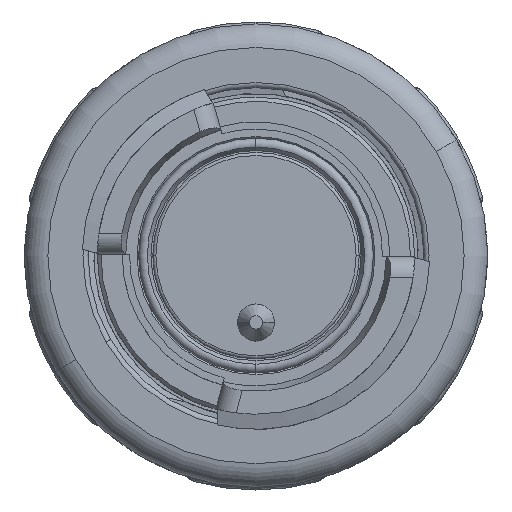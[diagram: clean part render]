
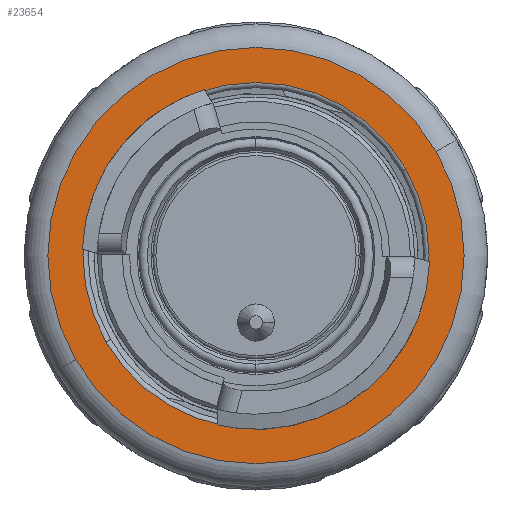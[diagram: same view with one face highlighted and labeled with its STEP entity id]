
A CAD part, top view. The second image highlights one B-rep face of the part: STEP entity #23654.
In plain terms, the highlighted planar face has unit normal (0, 0, 1).
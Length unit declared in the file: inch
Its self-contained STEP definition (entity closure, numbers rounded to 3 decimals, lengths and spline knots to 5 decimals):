
#2299 = DIRECTION ( 'NONE',  ( 0., 0., -1. ) ) ;
#2499 = DIRECTION ( 'NONE',  ( -0.866, -0.5, 0. ) ) ;
#4864 = EDGE_CURVE ( 'NONE', #11845, #38434, #4999, .T. ) ;
#4999 = CIRCLE ( 'NONE', #5017, 0.39775 ) ;
#5017 = AXIS2_PLACEMENT_3D ( 'NONE', #7075, #17125, #6851 ) ;
#6304 = CARTESIAN_POINT ( 'NONE',  ( -0.34446, -0.19887, -0.18898 ) ) ;
#6851 = DIRECTION ( 'NONE',  ( -0.866, -0.5, 0. ) ) ;
#7075 = CARTESIAN_POINT ( 'NONE',  ( 0., 0., -0.18898 ) ) ;
#9840 = CIRCLE ( 'NONE', #23508, 0.33071 ) ;
#11845 = VERTEX_POINT ( 'NONE', #6304 ) ;
#12236 = CARTESIAN_POINT ( 'NONE',  ( 0., 0., -0.18898 ) ) ;
#12658 = DIRECTION ( 'NONE',  ( 0., 0., -1. ) ) ;
#12749 = DIRECTION ( 'NONE',  ( 0., 0., -1. ) ) ;
#16556 = VERTEX_POINT ( 'NONE', #28803 ) ;
#17125 = DIRECTION ( 'NONE',  ( 0., 0., -1. ) ) ;
#18349 = CIRCLE ( 'NONE', #25162, 0.33071 ) ;
#18378 = CIRCLE ( 'NONE', #34791, 0.39775 ) ;
#19972 = DIRECTION ( 'NONE',  ( 0., 0., 1. ) ) ;
#21719 = FACE_BOUND ( 'NONE', #23373, .T. ) ;
#22618 = CARTESIAN_POINT ( 'NONE',  ( 0., 0., -0.18898 ) ) ;
#23296 = EDGE_CURVE ( 'NONE', #16556, #27034, #9840, .T. ) ;
#23373 = EDGE_LOOP ( 'NONE', ( #36790, #28431 ) ) ;
#23508 = AXIS2_PLACEMENT_3D ( 'NONE', #12236, #12658, #32352 ) ;
#23654 = ADVANCED_FACE ( 'NONE', ( #21719, #39480 ), #41670, .T. ) ;
#24205 = AXIS2_PLACEMENT_3D ( 'NONE', #36264, #19972, #35828 ) ;
#25162 = AXIS2_PLACEMENT_3D ( 'NONE', #42129, #12749, #38883 ) ;
#27034 = VERTEX_POINT ( 'NONE', #30867 ) ;
#28282 = CARTESIAN_POINT ( 'NONE',  ( 0.34446, 0.19887, -0.18898 ) ) ;
#28431 = ORIENTED_EDGE ( 'NONE', *, *, #28739, .T. ) ;
#28739 = EDGE_CURVE ( 'NONE', #27034, #16556, #18349, .T. ) ;
#28803 = CARTESIAN_POINT ( 'NONE',  ( -0.2864, -0.16535, -0.18898 ) ) ;
#30867 = CARTESIAN_POINT ( 'NONE',  ( 0.2864, 0.16535, -0.18898 ) ) ;
#31487 = EDGE_LOOP ( 'NONE', ( #31872, #33758 ) ) ;
#31872 = ORIENTED_EDGE ( 'NONE', *, *, #4864, .F. ) ;
#32352 = DIRECTION ( 'NONE',  ( -0.866, -0.5, 0. ) ) ;
#33758 = ORIENTED_EDGE ( 'NONE', *, *, #38971, .F. ) ;
#34791 = AXIS2_PLACEMENT_3D ( 'NONE', #22618, #2299, #2499 ) ;
#35828 = DIRECTION ( 'NONE',  ( 0.866, 0.5, 0. ) ) ;
#36264 = CARTESIAN_POINT ( 'NONE',  ( -0.16535, 0.2864, -0.18898 ) ) ;
#36790 = ORIENTED_EDGE ( 'NONE', *, *, #23296, .T. ) ;
#38434 = VERTEX_POINT ( 'NONE', #28282 ) ;
#38883 = DIRECTION ( 'NONE',  ( -0.866, -0.5, 0. ) ) ;
#38971 = EDGE_CURVE ( 'NONE', #38434, #11845, #18378, .T. ) ;
#39480 = FACE_OUTER_BOUND ( 'NONE', #31487, .T. ) ;
#41670 = PLANE ( 'NONE',  #24205 ) ;
#42129 = CARTESIAN_POINT ( 'NONE',  ( 0., 0., -0.18898 ) ) ;
